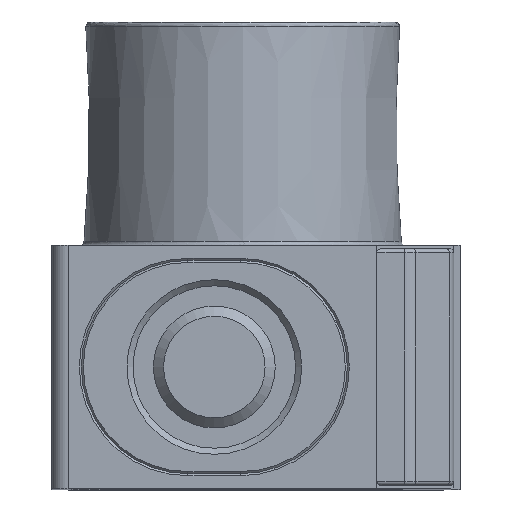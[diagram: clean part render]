
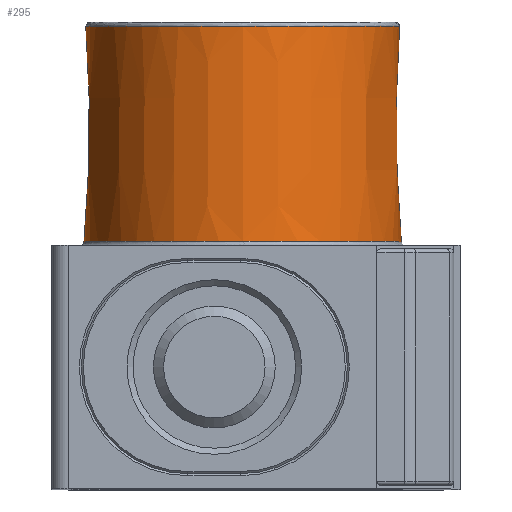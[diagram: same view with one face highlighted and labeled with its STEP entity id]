
A CAD part, top view. The second image highlights one B-rep face of the part: STEP entity #295.
In plain terms, the highlighted free-form (B-spline) face has degree [3, 3] with [17, 4] control points.
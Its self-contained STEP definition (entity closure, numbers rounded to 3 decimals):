
#144=CARTESIAN_POINT('',(-1.3,16.802,27.156));
#145=VERTEX_POINT('',#144);
#174=CARTESIAN_POINT('',(-1.3,16.802,27.157));
#175=CARTESIAN_POINT('',(-0.054,16.802,27.157));
#176=CARTESIAN_POINT('',(2.439,16.802,26.433));
#177=CARTESIAN_POINT('',(6.027,16.802,22.802));
#178=CARTESIAN_POINT('',(6.943,16.802,17.578));
#179=CARTESIAN_POINT('',(5.128,16.802,12.895));
#180=CARTESIAN_POINT('',(2.141,16.802,9.851));
#181=CARTESIAN_POINT('',(-1.774,16.802,9.082));
#182=CARTESIAN_POINT('',(-5.737,16.802,10.638));
#183=CARTESIAN_POINT('',(-7.959,16.802,13.267));
#184=CARTESIAN_POINT('',(-9.463,16.802,18.02));
#185=CARTESIAN_POINT('',(-8.63,16.802,22.798));
#186=CARTESIAN_POINT('',(-5.039,16.802,26.433));
#187=CARTESIAN_POINT('',(-2.546,16.802,27.157));
#188=CARTESIAN_POINT('',(-1.3,16.802,27.157));
#189=B_SPLINE_CURVE_WITH_KNOTS('',3,(#174,#175,#176,#177,#178,#179,#180,#181,#182,#183,#184,#185,#186,#187,#188),.UNSPECIFIED.,.T.,.U.,(4,1,1,1,1,1,1,1,1,1,1,1,4),(-3.142,-2.693,-2.244,-1.346,-0.898,-0.449,0.15,0.449,1.047,1.346,2.244,2.693,3.142),.UNSPECIFIED.);
#190=EDGE_CURVE('',#145,#145,#189,.T.);
#195=CARTESIAN_POINT('',(-1.3,6.203,27.249));
#196=CARTESIAN_POINT('',(-0.13,6.203,27.249));
#197=CARTESIAN_POINT('',(2.21,6.203,26.638));
#198=CARTESIAN_POINT('',(5.026,6.203,24.069));
#199=CARTESIAN_POINT('',(6.586,6.203,20.361));
#200=CARTESIAN_POINT('',(6.592,6.203,15.779));
#201=CARTESIAN_POINT('',(4.756,6.203,12.15));
#202=CARTESIAN_POINT('',(1.492,6.203,9.604));
#203=CARTESIAN_POINT('',(-1.728,6.203,9.047));
#204=CARTESIAN_POINT('',(-5.124,6.203,10.251));
#205=CARTESIAN_POINT('',(-7.625,6.203,12.529));
#206=CARTESIAN_POINT('',(-9.188,6.203,16.242));
#207=CARTESIAN_POINT('',(-9.188,6.203,20.359));
#208=CARTESIAN_POINT('',(-7.626,6.203,24.07));
#209=CARTESIAN_POINT('',(-4.81,6.203,26.638));
#210=CARTESIAN_POINT('',(-2.47,6.203,27.249));
#211=CARTESIAN_POINT('',(-1.3,6.203,27.249));
#212=CARTESIAN_POINT('',(-1.3,9.736,27.218));
#213=CARTESIAN_POINT('',(-0.135,9.736,27.218));
#214=CARTESIAN_POINT('',(2.194,9.736,26.61));
#215=CARTESIAN_POINT('',(5.,9.736,24.051));
#216=CARTESIAN_POINT('',(6.555,9.736,20.355));
#217=CARTESIAN_POINT('',(6.561,9.736,15.786));
#218=CARTESIAN_POINT('',(4.731,9.736,12.169));
#219=CARTESIAN_POINT('',(1.48,9.736,9.633));
#220=CARTESIAN_POINT('',(-1.726,9.736,9.079));
#221=CARTESIAN_POINT('',(-5.107,9.736,10.278));
#222=CARTESIAN_POINT('',(-7.599,9.736,12.547));
#223=CARTESIAN_POINT('',(-9.157,9.736,16.248));
#224=CARTESIAN_POINT('',(-9.157,9.736,20.353));
#225=CARTESIAN_POINT('',(-7.6,9.736,24.052));
#226=CARTESIAN_POINT('',(-4.795,9.736,26.61));
#227=CARTESIAN_POINT('',(-2.465,9.736,27.218));
#228=CARTESIAN_POINT('',(-1.3,9.736,27.218));
#229=CARTESIAN_POINT('',(-1.3,13.269,27.187));
#230=CARTESIAN_POINT('',(-0.14,13.269,27.187));
#231=CARTESIAN_POINT('',(2.178,13.269,26.582));
#232=CARTESIAN_POINT('',(4.974,13.269,24.033));
#233=CARTESIAN_POINT('',(6.524,13.269,20.349));
#234=CARTESIAN_POINT('',(6.53,13.269,15.793));
#235=CARTESIAN_POINT('',(4.705,13.269,12.188));
#236=CARTESIAN_POINT('',(1.467,13.269,9.663));
#237=CARTESIAN_POINT('',(-1.724,13.269,9.111));
#238=CARTESIAN_POINT('',(-5.09,13.269,10.304));
#239=CARTESIAN_POINT('',(-7.573,13.269,12.564));
#240=CARTESIAN_POINT('',(-9.126,13.269,16.254));
#241=CARTESIAN_POINT('',(-9.125,13.269,20.347));
#242=CARTESIAN_POINT('',(-7.574,13.269,24.035));
#243=CARTESIAN_POINT('',(-4.779,13.269,26.582));
#244=CARTESIAN_POINT('',(-2.46,13.269,27.187));
#245=CARTESIAN_POINT('',(-1.3,13.269,27.187));
#246=CARTESIAN_POINT('',(-1.3,16.802,27.156));
#247=CARTESIAN_POINT('',(-0.146,16.802,27.156));
#248=CARTESIAN_POINT('',(2.163,16.802,26.554));
#249=CARTESIAN_POINT('',(4.948,16.802,24.015));
#250=CARTESIAN_POINT('',(6.493,16.802,20.343));
#251=CARTESIAN_POINT('',(6.499,16.802,15.801));
#252=CARTESIAN_POINT('',(4.68,16.802,12.208));
#253=CARTESIAN_POINT('',(1.454,16.802,9.692));
#254=CARTESIAN_POINT('',(-1.722,16.802,9.144));
#255=CARTESIAN_POINT('',(-5.073,16.802,10.331));
#256=CARTESIAN_POINT('',(-7.546,16.802,12.582));
#257=CARTESIAN_POINT('',(-9.095,16.802,16.26));
#258=CARTESIAN_POINT('',(-9.094,16.802,20.341));
#259=CARTESIAN_POINT('',(-7.547,16.802,24.017));
#260=CARTESIAN_POINT('',(-4.763,16.802,26.554));
#261=CARTESIAN_POINT('',(-2.454,16.802,27.156));
#262=CARTESIAN_POINT('',(-1.3,16.802,27.156));
#263=B_SPLINE_SURFACE_WITH_KNOTS('',3,3,((#195,#212,#229,#246),(#196,#213,#230,#247),(#197,#214,#231,#248),(#198,#215,#232,#249),(#199,#216,#233,#250),(#200,#217,#234,#251),(#201,#218,#235,#252),(#202,#219,#236,#253),(#203,#220,#237,#254),(#204,#221,#238,#255),(#205,#222,#239,#256),(#206,#223,#240,#257),(#207,#224,#241,#258),(#208,#225,#242,#259),(#209,#226,#243,#260),(#210,#227,#244,#261),(#211,#228,#245,#262)),.UNSPECIFIED.,.T.,.F.,.F.,(4,1,1,1,1,1,1,1,1,1,1,1,1,1,4),(4,4),(-9.425,-8.976,-8.527,-8.078,-7.63,-7.031,-6.732,-6.134,-5.834,-5.386,-4.937,-4.488,-4.039,-3.59,-3.142),(-1.08,-0.02),.UNSPECIFIED.);
#264=ORIENTED_EDGE('',*,*,#190,.F.);
#265=CARTESIAN_POINT('',(-1.3,6.203,27.248));
#266=VERTEX_POINT('',#265);
#267=CARTESIAN_POINT('',(-1.3,6.203,27.249));
#268=CARTESIAN_POINT('',(-1.3,9.736,27.218));
#269=CARTESIAN_POINT('',(-1.3,13.269,27.187));
#270=CARTESIAN_POINT('',(-1.3,16.802,27.156));
#271=B_SPLINE_CURVE_WITH_KNOTS('',3,(#267,#268,#269,#270),.UNSPECIFIED.,.F.,.U.,(4,4),(-1.08,-0.02),.UNSPECIFIED.);
#272=EDGE_CURVE('',#266,#145,#271,.T.);
#273=ORIENTED_EDGE('',*,*,#272,.F.);
#274=CARTESIAN_POINT('',(-1.3,6.203,27.249));
#275=CARTESIAN_POINT('',(-2.547,6.203,27.249));
#276=CARTESIAN_POINT('',(-5.041,6.203,26.538));
#277=CARTESIAN_POINT('',(-8.7,6.203,22.899));
#278=CARTESIAN_POINT('',(-9.654,6.203,17.56));
#279=CARTESIAN_POINT('',(-7.781,6.203,12.795));
#280=CARTESIAN_POINT('',(-4.739,6.203,9.747));
#281=CARTESIAN_POINT('',(-0.826,6.203,8.996));
#282=CARTESIAN_POINT('',(2.346,6.203,10.222));
#283=CARTESIAN_POINT('',(4.942,6.203,12.398));
#284=CARTESIAN_POINT('',(7.136,6.203,17.129));
#285=CARTESIAN_POINT('',(6.099,6.203,22.894));
#286=CARTESIAN_POINT('',(2.441,6.203,26.54));
#287=CARTESIAN_POINT('',(-0.053,6.203,27.25));
#288=CARTESIAN_POINT('',(-1.3,6.203,27.249));
#289=B_SPLINE_CURVE_WITH_KNOTS('',3,(#274,#275,#276,#277,#278,#279,#280,#281,#282,#283,#284,#285,#286,#287,#288),.UNSPECIFIED.,.T.,.U.,(4,1,1,1,1,1,1,1,1,1,1,1,4),(4.607,4.985,5.363,6.118,6.495,6.873,7.377,7.628,7.88,8.384,9.139,9.517,9.894),.UNSPECIFIED.);
#290=EDGE_CURVE('',#266,#266,#289,.T.);
#291=ORIENTED_EDGE('',*,*,#290,.F.);
#292=ORIENTED_EDGE('',*,*,#272,.T.);
#293=EDGE_LOOP('',(#264,#273,#291,#292));
#294=FACE_OUTER_BOUND('',#293,.T.);
#295=ADVANCED_FACE('',(#294),#263,.T.);
